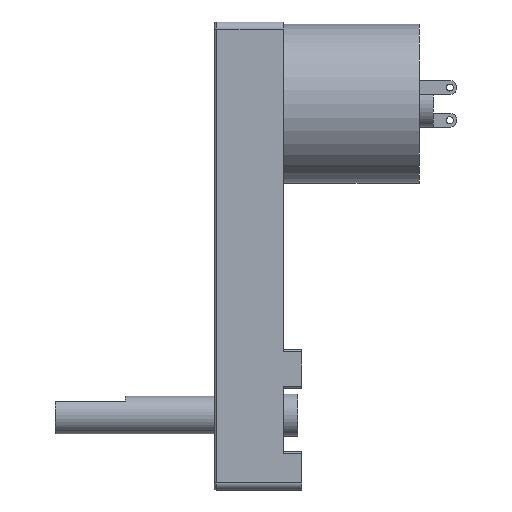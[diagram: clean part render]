
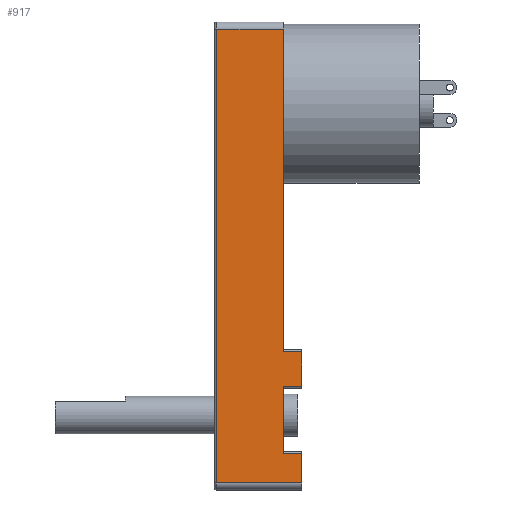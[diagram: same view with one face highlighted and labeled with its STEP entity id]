
A CAD part, left-side view. The second image highlights one B-rep face of the part: STEP entity #917.
In plain terms, the highlighted planar face has unit normal (-1, 0, 0).
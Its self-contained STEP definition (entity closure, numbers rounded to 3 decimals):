
#246=CARTESIAN_POINT('',(-14.,14.3,88.5));
#247=VERTEX_POINT('',#246);
#280=CARTESIAN_POINT('',(-14.,14.3,-8.5));
#281=VERTEX_POINT('',#280);
#289=CARTESIAN_POINT('',(-14.0,14.3,-8.5));
#290=DIRECTION('',(0.0,0.0,1.0));
#291=VECTOR('',#290,97.0);
#292=LINE('',#289,#291);
#293=EDGE_CURVE('',#281,#247,#292,.T.);
#740=CARTESIAN_POINT('',(-14.,-3.9,19.5));
#741=VERTEX_POINT('',#740);
#759=CARTESIAN_POINT('',(-14.,0.0,19.5));
#760=VERTEX_POINT('',#759);
#768=CARTESIAN_POINT('',(-14.,0.0,19.5));
#769=DIRECTION('',(0.0,-1.0,0.0));
#770=VECTOR('',#769,3.9);
#771=LINE('',#768,#770);
#772=EDGE_CURVE('',#760,#741,#771,.T.);
#783=CARTESIAN_POINT('',(-14.,-3.9,12.2));
#784=VERTEX_POINT('',#783);
#785=CARTESIAN_POINT('',(-14.,-3.9,12.2));
#786=DIRECTION('',(0.0,0.0,1.0));
#787=VECTOR('',#786,7.3);
#788=LINE('',#785,#787);
#789=EDGE_CURVE('',#784,#741,#788,.T.);
#855=CARTESIAN_POINT('',(-14.,0.0,90.0));
#856=DIRECTION('',(-1.0,0.0,0.0));
#857=DIRECTION('',(0.0,0.0,1.0));
#858=AXIS2_PLACEMENT_3D('',#855,#856,#857);
#859=PLANE('',#858);
#860=ORIENTED_EDGE('',*,*,#293,.F.);
#861=CARTESIAN_POINT('',(-14.,-3.9,-8.5));
#862=VERTEX_POINT('',#861);
#863=CARTESIAN_POINT('',(-14.,-3.9,-8.5));
#864=DIRECTION('',(0.0,1.0,0.0));
#865=VECTOR('',#864,18.2);
#866=LINE('',#863,#865);
#867=EDGE_CURVE('',#862,#281,#866,.T.);
#868=ORIENTED_EDGE('',*,*,#867,.F.);
#869=CARTESIAN_POINT('',(-14.0,-3.9,-2.3));
#870=VERTEX_POINT('',#869);
#871=CARTESIAN_POINT('',(-14.,-3.9,-8.5));
#872=DIRECTION('',(0.0,0.0,1.0));
#873=VECTOR('',#872,6.2);
#874=LINE('',#871,#873);
#875=EDGE_CURVE('',#862,#870,#874,.T.);
#876=ORIENTED_EDGE('',*,*,#875,.T.);
#877=CARTESIAN_POINT('',(-14.0,0.0,-2.3));
#878=VERTEX_POINT('',#877);
#879=CARTESIAN_POINT('',(-14.0,0.0,-2.3));
#880=DIRECTION('',(0.0,-1.0,0.0));
#881=VECTOR('',#880,3.9);
#882=LINE('',#879,#881);
#883=EDGE_CURVE('',#878,#870,#882,.T.);
#884=ORIENTED_EDGE('',*,*,#883,.F.);
#885=CARTESIAN_POINT('',(-14.,0.0,12.2));
#886=VERTEX_POINT('',#885);
#887=CARTESIAN_POINT('',(-14.,0.0,12.2));
#888=DIRECTION('',(0.0,0.0,-1.0));
#889=VECTOR('',#888,14.5);
#890=LINE('',#887,#889);
#891=EDGE_CURVE('',#886,#878,#890,.T.);
#892=ORIENTED_EDGE('',*,*,#891,.F.);
#893=CARTESIAN_POINT('',(-14.,-3.9,12.2));
#894=DIRECTION('',(0.0,1.0,0.0));
#895=VECTOR('',#894,3.9);
#896=LINE('',#893,#895);
#897=EDGE_CURVE('',#784,#886,#896,.T.);
#898=ORIENTED_EDGE('',*,*,#897,.F.);
#899=ORIENTED_EDGE('',*,*,#789,.T.);
#900=ORIENTED_EDGE('',*,*,#772,.F.);
#901=CARTESIAN_POINT('',(-14.,0.0,88.5));
#902=VERTEX_POINT('',#901);
#903=CARTESIAN_POINT('',(-14.,0.0,19.5));
#904=DIRECTION('',(0.0,0.0,1.0));
#905=VECTOR('',#904,69.0);
#906=LINE('',#903,#905);
#907=EDGE_CURVE('',#760,#902,#906,.T.);
#908=ORIENTED_EDGE('',*,*,#907,.T.);
#909=CARTESIAN_POINT('',(-14.,14.3,88.5));
#910=DIRECTION('',(0.0,-1.0,0.0));
#911=VECTOR('',#910,14.3);
#912=LINE('',#909,#911);
#913=EDGE_CURVE('',#247,#902,#912,.T.);
#914=ORIENTED_EDGE('',*,*,#913,.F.);
#915=EDGE_LOOP('',(#860,#868,#876,#884,#892,#898,#899,#900,#908,#914));
#916=FACE_OUTER_BOUND('',#915,.T.);
#917=ADVANCED_FACE('',(#916),#859,.T.);
